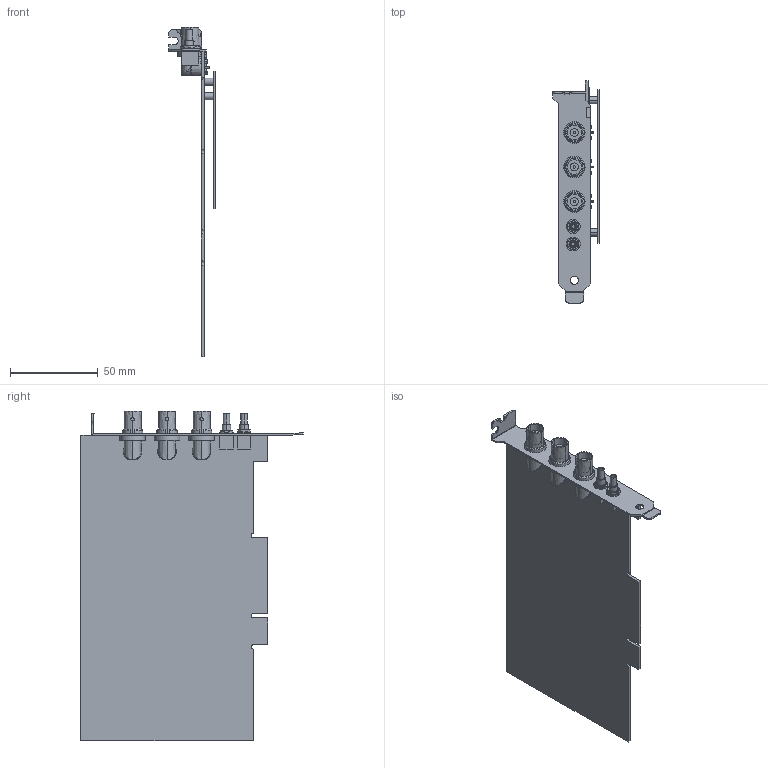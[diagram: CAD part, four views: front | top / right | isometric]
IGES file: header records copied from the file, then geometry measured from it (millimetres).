
Start section:  PTC IGES file: cu_pci-5102.igs
Global section: file name: cu_pci-5102.igs; native system: Pro/ENGINEER by Parametric Technology Corporation; preprocessor: 2006080; author: jjorden; organization: Unknown; date: 100113.152210; units: inch
Bounding box: 26.54 x 126.95 x 188.09 mm (x, y, z)
Surface area: 60078 mm2 (no closed solid volume)
Topology: 0 solids, 0 shells, 490 faces, 2412 edges, 2412 vertices
Faces by surface type: bspline 301, revolution 189
